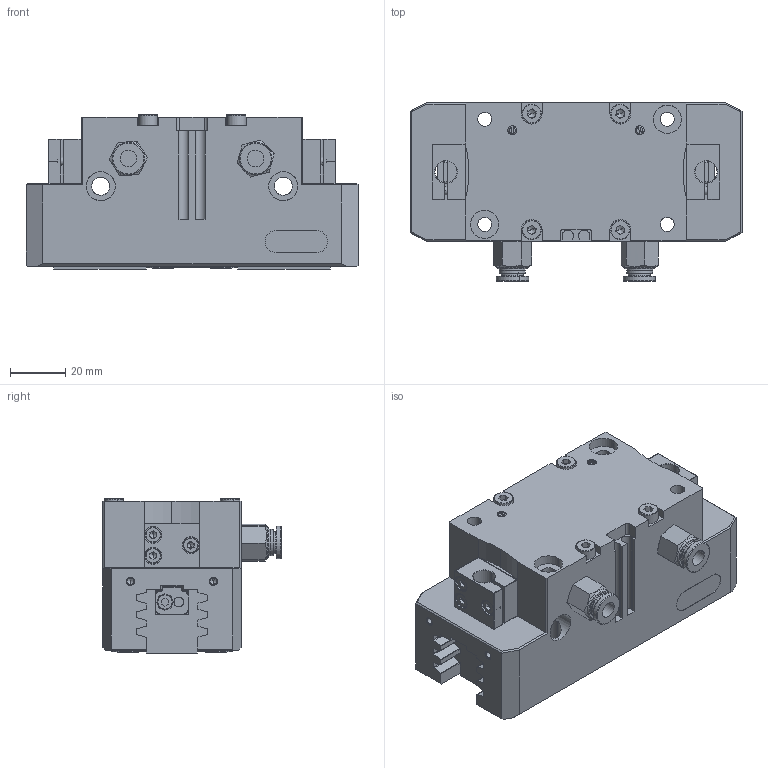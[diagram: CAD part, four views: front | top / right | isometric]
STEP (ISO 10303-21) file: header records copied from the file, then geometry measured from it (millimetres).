
FILE_DESCRIPTION (( 'STEP AP214' ), '1' );
FILE_NAME ('FPT-100B-1×°Åä.STEP', '2024-09-04T01:33:49', ( '' ), ( '' ), 'SwSTEP 2.0', 'SolidWorks 2018', '' );
FILE_SCHEMA (( 'AUTOMOTIVE_DESIGN' ));
Length unit declared in the file: millimetre
Products named in the file (1): FPT-100B-1蚾饜
Bounding box: 120 x 64.55 x 55.8 mm (x, y, z)
Volume: 243881 mm3; surface area: 56269.8 mm2
Topology: 1 solids, 22 shells, 1399 faces, 3486 edges, 2138 vertices
Faces by surface type: plane 743, cylinder 376, cone 248, torus 32
Entity records: 48418 total; most frequent: CARTESIAN_POINT 9762, DIRECTION 7266, ORIENTED_EDGE 6844, EDGE_CURVE 3422, AXIS2_PLACEMENT_3D 2596, VERTEX_POINT 2138, LINE 2074, VECTOR 2074
